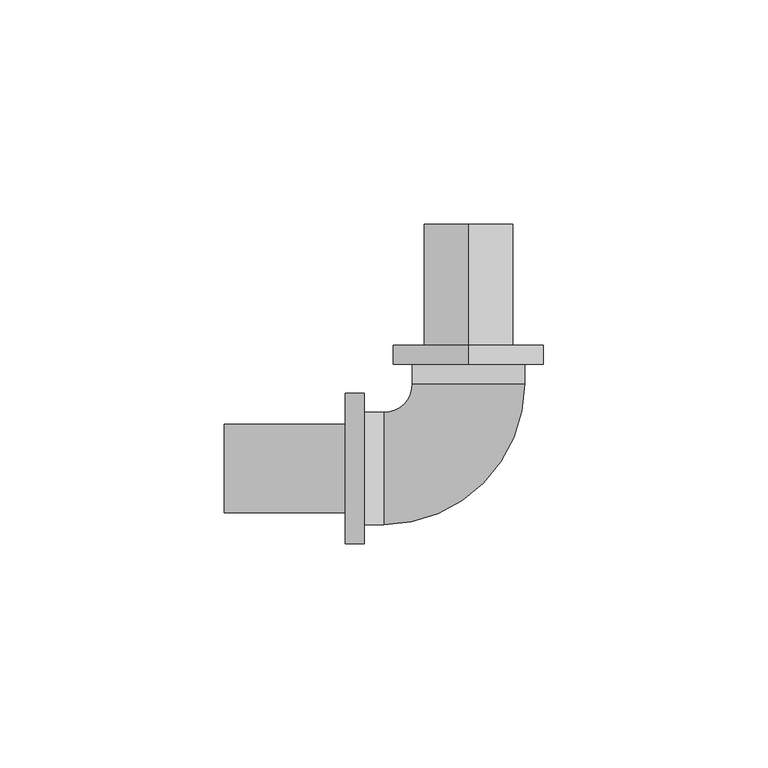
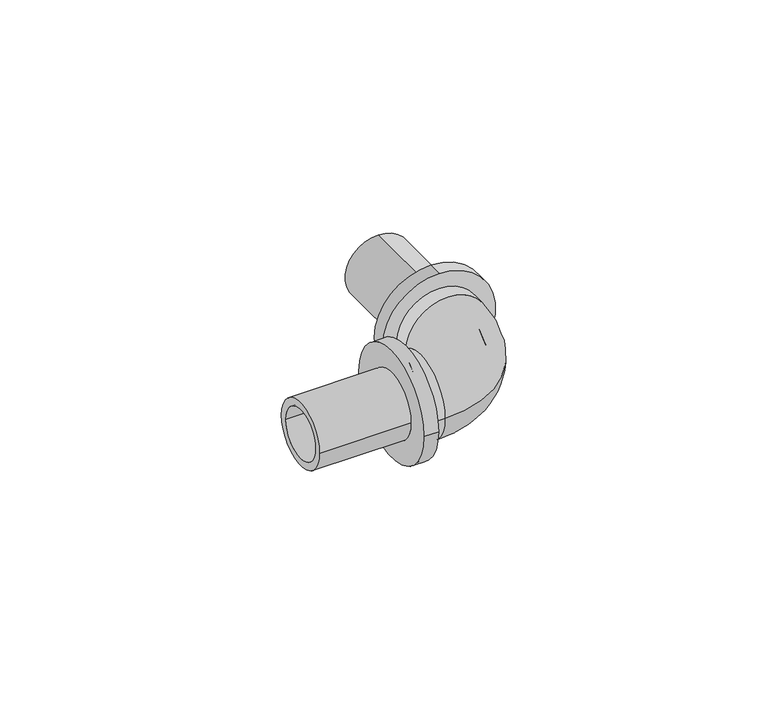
"""IFC4 building model written with IfcOpenShell, lengths in millimetres: pipe fitting geometry, RAUTITAN_Corner_RX+ : RTI RX+ C DE."""

import ifcopenshell
import ifcopenshell.guid

model = None  # the IFC model being written
_history = None  # IfcOwnerHistory: only IFC2X3 demands one
_inside = {}  # id of a spatial element -> (the spatial element, [elements in it])
_under = {}  # id of a project, library or spatial element -> (it, [spatial elements below it])
_declared = {}  # id of a project -> (the project, [libraries it declares])
_typed = {}  # id of a type object -> (the type object, [elements of that type])
_made_of = {}  # id of a material, layer set ... -> (it, [elements and type objects made of it])


def new_model(schema):
    """Start an empty IFC model of exactly this schema.

    Asked for "IFC4X3", IfcOpenShell would pick the latest addendum, in which some entities
    have other attributes; the version numbers below select the first issue.
    IFC2X3 requires an IfcOwnerHistory on every rooted entity: one is made here for all.
    """
    global model, _history
    if schema == "IFC4X3":
        model = ifcopenshell.file(schema_version=(4, 3, 0, 0))
    else:
        model = ifcopenshell.file(schema=schema)
    _inside.clear()
    _under.clear()
    _declared.clear()
    _typed.clear()
    _made_of.clear()
    _history = None
    if model.schema == "IFC2X3":
        org = make("IfcOrganization", Name="unknown")
        user = make(
            "IfcPersonAndOrganization",
            ThePerson=make("IfcPerson", FamilyName="unknown"),
            TheOrganization=org,
        )
        app = make(
            "IfcApplication",
            ApplicationDeveloper=org,
            Version="unknown",
            ApplicationFullName="unknown",
            ApplicationIdentifier="unknown",
        )
        _history = make(
            "IfcOwnerHistory",
            OwningUser=user,
            OwningApplication=app,
            ChangeAction="ADDED",
            CreationDate=0,
        )
    return model


def make(cls, **values):
    """One entity of the class cls with the attributes given. An attribute that is None is left unset."""
    return model.create_entity(
        cls, **{name: value for name, value in values.items() if value is not None}
    )


def rooted(cls, **values):
    """An entity with a GlobalId (a new one), such as an element, a storey or a relation."""
    return make(cls, GlobalId=ifcopenshell.guid.new(), OwnerHistory=_history, **values)


def si_unit(unit_type, name, prefix=None):
    """IfcSIUnit, for example si_unit("LENGTHUNIT", "METRE", prefix="MILLI")."""
    return make("IfcSIUnit", UnitType=unit_type, Prefix=prefix, Name=name)


def assignment(units):
    """IfcUnitAssignment: the units of a project."""
    return None if units is None else make("IfcUnitAssignment", Units=units)


def point(xyz):
    """IfcCartesianPoint."""
    return None if xyz is None else make("IfcCartesianPoint", Coordinates=xyz)


def direction(xyz):
    """IfcDirection."""
    return None if xyz is None else make("IfcDirection", DirectionRatios=xyz)


def frame(location, z_axis=None, x_axis=None):
    """IfcAxis2Placement3D, a coordinate frame: its origin and axes. An axis left out is left unset."""
    return make(
        "IfcAxis2Placement3D",
        Location=point(location),
        Axis=direction(z_axis),
        RefDirection=direction(x_axis),
    )


def origin():
    """The frame at (0, 0, 0) with its axes left unset."""
    return frame((0.0, 0.0, 0.0))


def place(relative_to, where):
    """IfcLocalPlacement: puts the frame where relative to a parent placement (None: the world)."""
    return make(
        "IfcLocalPlacement", PlacementRelTo=relative_to, RelativePlacement=where
    )


def context(
    kind, dimensions, precision=None, world=None, true_north=None, identifier=None
):
    """IfcGeometricRepresentationContext, for example the 3D "Model" context."""
    return make(
        "IfcGeometricRepresentationContext",
        ContextIdentifier=identifier,
        ContextType=kind,
        CoordinateSpaceDimension=dimensions,
        Precision=precision,
        WorldCoordinateSystem=world,
        TrueNorth=true_north,
    )


def project(units=None, contexts=None):
    """IfcProject with its units and contexts."""
    return rooted(
        "IfcProject",
        Name="project",
        RepresentationContexts=contexts,
        UnitsInContext=assignment(units),
    )


def spatial(cls, under=None, at=None, **own):
    """A site, building, storey or space (cls), placed at a placement, below another one or the project."""
    s = rooted(cls, ObjectPlacement=at, **own)
    if under is not None:
        _under.setdefault(under.id(), (under, []))[1].append(s)
    return s


def polyline(points):
    """IfcPolyline through the points."""
    return make("IfcPolyline", Points=[point(p) for p in points])


def circle_curve(where, radius):
    """IfcCircle in the frame where."""
    return make("IfcCircle", Position=where, Radius=radius)


def ellipse_curve(where, semi_axis1, semi_axis2):
    """IfcEllipse in the frame where."""
    return make(
        "IfcEllipse", Position=where, SemiAxis1=semi_axis1, SemiAxis2=semi_axis2
    )


def trimmed(basis, trim1, trim2, sense, master):
    """IfcTrimmedCurve: the piece of a basis curve between two trims."""
    return make(
        "IfcTrimmedCurve",
        BasisCurve=basis,
        Trim1=trim1,
        Trim2=trim2,
        SenseAgreement=sense,
        MasterRepresentation=master,
    )


def shape(context_of_items, identifier, shape_type, items):
    """IfcShapeRepresentation: the items that make up one representation, for example the "Body"."""
    return make(
        "IfcShapeRepresentation",
        ContextOfItems=context_of_items,
        RepresentationIdentifier=identifier,
        RepresentationType=shape_type,
        Items=items,
    )


def source(mapping_origin, context_of_items, identifier, shape_type, items):
    """IfcRepresentationMap: a shape defined once, which mapped items show again and again."""
    return make(
        "IfcRepresentationMap",
        MappingOrigin=mapping_origin,
        MappedRepresentation=shape(context_of_items, identifier, shape_type, items),
    )


def transform(
    local_origin,
    x_axis=None,
    y_axis=None,
    z_axis=None,
    scale=None,
    scale2=None,
    scale3=None,
    uniform=True,
):
    """IfcCartesianTransformationOperator3D, or its non-uniform kind. x_axis, y_axis, z_axis: its Axis1, 2, 3."""
    if uniform:
        return make(
            "IfcCartesianTransformationOperator3D",
            Axis1=direction(x_axis),
            Axis2=direction(y_axis),
            LocalOrigin=point(local_origin),
            Scale=scale,
            Axis3=direction(z_axis),
        )
    return make(
        "IfcCartesianTransformationOperator3DnonUniform",
        Axis1=direction(x_axis),
        Axis2=direction(y_axis),
        LocalOrigin=point(local_origin),
        Scale=scale,
        Axis3=direction(z_axis),
        Scale2=scale2,
        Scale3=scale3,
    )


def mapped(mapping_source, mapping_target):
    """IfcMappedItem: shows the shape of a source again, moved by a transform."""
    return make(
        "IfcMappedItem", MappingSource=mapping_source, MappingTarget=mapping_target
    )


def made_of(thing, what):
    """Note that an element or type object is made of a material, layer set ...; save() writes the relation."""
    if what is not None:
        _made_of.setdefault(what.id(), (what, []))[1].append(thing)
    return thing


def element(
    cls,
    number,
    at=None,
    inside=None,
    cuts=None,
    type_object=None,
    material=None,
    context=None,
    identifier="Body",
    shape_type=None,
    held_by="IfcProductDefinitionShape",
    body=None,
    shapes=None,
    **own,
):
    """One element of the class cls, such as IfcWall. Its Tag is "e" and its number.

    at: its placement. inside: the storey or other place that contains it. cuts: it is an
    opening in that element (IfcRelVoidsElement). A single representation is given by context,
    identifier, shape_type and body (its items); several are given by shapes. held_by: the class
    of the entity that holds the representations. save() writes the other relations.
    """
    e = rooted(cls, Tag="e%d" % number, ObjectPlacement=at, **own)
    if body is not None:
        shapes = [shape(context, identifier, shape_type, body)]
    if shapes is not None:
        e.Representation = make(held_by, Representations=shapes)
    if inside is not None:
        _inside.setdefault(inside.id(), (inside, []))[1].append(e)
    if cuts is not None:
        rooted(
            "IfcRelVoidsElement", RelatingBuildingElement=cuts, RelatedOpeningElement=e
        )
    if type_object is not None:
        _typed.setdefault(type_object.id(), (type_object, []))[1].append(e)
    return made_of(e, material)


def aggregate(whole, parts):
    """IfcRelAggregates: a whole, such as a stair, and the parts it consists of."""
    return rooted("IfcRelAggregates", RelatingObject=whole, RelatedObjects=parts)


def save(model, path):
    """Write the relations noted so far, then the file.

    IfcRelAggregates (storeys below a building ...), IfcRelContainedInSpatialStructure (elements
    in a storey), IfcRelDefinesByType, IfcRelAssociatesMaterial and IfcRelDeclares: one each for
    every whole, place, type object, material and project.
    """
    for whole, parts in _under.values():
        aggregate(whole, parts)
    for where, things in _inside.values():
        rooted(
            "IfcRelContainedInSpatialStructure",
            RelatedElements=things,
            RelatingStructure=where,
        )
    for kind, things in _typed.values():
        rooted("IfcRelDefinesByType", RelatedObjects=things, RelatingType=kind)
    for what, things in _made_of.values():
        rooted("IfcRelAssociatesMaterial", RelatedObjects=things, RelatingMaterial=what)
    for by, libraries in _declared.values():
        rooted("IfcRelDeclares", RelatingContext=by, RelatedDefinitions=libraries)
    model.write(path)


def plane_surface(at):
    """IfcPlane: the flat surface through the origin of the frame at, square to its z axis."""
    return make("IfcPlane", Position=at)


def cylinder_surface(at, radius):
    """IfcCylindricalSurface: all points at the distance radius from the z axis of the frame at."""
    return make("IfcCylindricalSurface", Position=at, Radius=radius)


def revolved_surface(curve, axis_point, axis_direction):
    """IfcSurfaceOfRevolution: the curve turned about the line through axis_point along axis_direction."""
    return make(
        "IfcSurfaceOfRevolution",
        SweptCurve=make("IfcArbitraryOpenProfileDef", ProfileType="CURVE", Curve=curve),
        AxisPosition=make("IfcAxis1Placement", Location=point(axis_point), Axis=direction(axis_direction)),
    )


def advanced_brep(points, edges, surfaces, faces):
    """IfcAdvancedBrep: a solid bounded by faces that lie on surfaces and meet in shared edges.

    An edge is (start, end): straight between two places in points (the first is 0);
    or (start, end, curve); or (start, end, curve, False) where it runs against its curve.
    A face is (place in surfaces, loops), or (place, loops, False) where it looks against
    its surface's normal. A loop lists edges by number (the first is 1), with a minus sign
    where the edge is run from its end to its start. The first loop is the outer one.
    """
    corners = [point(p) for p in points]
    vertices = [make("IfcVertexPoint", VertexGeometry=c) for c in corners]
    made = []
    for start, end, *more in edges:
        made.append(
            make(
                "IfcEdgeCurve",
                EdgeStart=vertices[start],
                EdgeEnd=vertices[end],
                EdgeGeometry=more[0] if more else make("IfcPolyline", Points=[corners[start], corners[end]]),
                SameSense=more[1] if len(more) > 1 else True,
            )
        )
    hull = []
    for where, loops, *sense in faces:
        bounds = []
        for j, loop in enumerate(loops):
            ring = [make("IfcOrientedEdge", EdgeElement=made[abs(k) - 1], Orientation=k > 0) for k in loop]
            bounds.append(
                make(
                    "IfcFaceOuterBound" if j == 0 else "IfcFaceBound",
                    Bound=make("IfcEdgeLoop", EdgeList=ring),
                    Orientation=True,
                )
            )
        hull.append(make("IfcAdvancedFace", Bounds=bounds, FaceSurface=surfaces[where], SameSense=sense[0] if sense else True))
    return make("IfcAdvancedBrep", Outer=make("IfcClosedShell", CfsFaces=hull))


def pipe_fitting_8abba781(model_context):
    return source(origin(), model_context, "Body", "AdvancedBrep", [
        advanced_brep(
        [(-23.3, 12.5, 0.0), (-23.3, -12.5, 0.0), (-23.3, 7.6, 0.0), (-23.3, -7.6, 0.0), (-18.9, -7.6, 0.0), (-18.9, 7.6, 0.0), (-18.9, -12.5, 0.0), (-18.9, 12.5, 0.0), (12.5, 23.3, 0.0), (-12.5, 23.3, 0.0), (7.6, 23.3, 0.0), (-7.6, 23.3, 0.0), (-7.6, 18.9, 0.0), (7.6, 18.9, 0.0), (-12.5, 18.9, 0.0), (12.5, 18.9, 0.0)],
        [
            (0, 1, circle_curve(frame((-23.3, 0.0, 0.0), z_axis=(-1.0, 0.0, 0.0), x_axis=(0.0, -1.0, 0.0)), 12.5)),
            (1, 0, circle_curve(frame((-23.3, 0.0, 0.0), z_axis=(-1.0, 0.0, 0.0), x_axis=(0.0, -1.0, 0.0)), 12.5)),
            (2, 3, circle_curve(frame((-23.3, 0.0, 0.0), z_axis=(1.0, 0.0, 0.0), x_axis=(0.0, -1.0, 0.0)), 7.6)),
            (3, 2, circle_curve(frame((-23.3, 0.0, 0.0), z_axis=(1.0, 0.0, 0.0), x_axis=(0.0, -1.0, 0.0)), 7.6)),
            (3, 4),
            (4, 5, circle_curve(frame((-18.9, 0.0, 0.0), z_axis=(1.0, 0.0, 0.0), x_axis=(0.0, -1.0, 0.0)), 7.6)),
            (5, 2),
            (5, 4, circle_curve(frame((-18.9, 0.0, 0.0), z_axis=(1.0, 0.0, 0.0), x_axis=(0.0, -1.0, 0.0)), 7.6)),
            (1, 6),
            (6, 7, circle_curve(frame((-18.9, 0.0, 0.0), z_axis=(-1.0, 0.0, 0.0), x_axis=(0.0, -1.0, 0.0)), 12.5)),
            (7, 0),
            (7, 6, circle_curve(frame((-18.9, 0.0, 0.0), z_axis=(-1.0, 0.0, 0.0), x_axis=(0.0, -1.0, 0.0)), 12.5)),
            (8, 9, circle_curve(frame((0.0, 23.3, 0.0), z_axis=(0.0, 1.0, 0.0), x_axis=(-1.0, 0.0, 0.0)), 12.5)),
            (9, 8, circle_curve(frame((0.0, 23.3, 0.0), z_axis=(0.0, 1.0, 0.0), x_axis=(-1.0, 0.0, 0.0)), 12.5)),
            (10, 11, circle_curve(frame((0.0, 23.3, 0.0), z_axis=(0.0, -1.0, 0.0), x_axis=(-1.0, 0.0, 0.0)), 7.6)),
            (11, 10, circle_curve(frame((0.0, 23.3, 0.0), z_axis=(0.0, -1.0, 0.0), x_axis=(-1.0, 0.0, 0.0)), 7.6)),
            (11, 12),
            (12, 13, circle_curve(frame((0.0, 18.9, 0.0), z_axis=(0.0, -1.0, 0.0), x_axis=(-1.0, 0.0, 0.0)), 7.6)),
            (13, 10),
            (13, 12, circle_curve(frame((0.0, 18.9, 0.0), z_axis=(0.0, -1.0, 0.0), x_axis=(-1.0, 0.0, 0.0)), 7.6)),
            (9, 14),
            (14, 15, circle_curve(frame((0.0, 18.9, 0.0), z_axis=(0.0, 1.0, 0.0), x_axis=(-1.0, 0.0, 0.0)), 12.5)),
            (15, 8),
            (15, 14, circle_curve(frame((0.0, 18.9, 0.0), z_axis=(0.0, 1.0, 0.0), x_axis=(-1.0, 0.0, 0.0)), 12.5)),
            (12, 5, circle_curve(frame((-18.9, 18.9, 0.0), z_axis=(0.0, 0.0, -1.0), x_axis=(0.0, -1.0, 0.0)), 11.3)),
            (4, 13, circle_curve(frame((-18.9, 18.9, 0.0), z_axis=(0.0, 0.0, 1.0), x_axis=(0.0, -1.0, 0.0)), 26.5)),
            (14, 7, circle_curve(frame((-18.9, 18.9, 0.0), z_axis=(0.0, 0.0, -1.0), x_axis=(0.0, -1.0, 0.0)), 6.4)),
            (6, 15, circle_curve(frame((-18.9, 18.9, 0.0), z_axis=(0.0, 0.0, 1.0), x_axis=(0.0, -1.0, 0.0)), 31.4)),
        ],
        [
            plane_surface(frame((-23.3, 0.0, 0.0), z_axis=(-1.0, 0.0, 0.0), x_axis=(0.0, 0.0, 1.0))),
            revolved_surface(polyline([(-23.3, -7.6, 0.0), (-18.9, -7.6, 0.0)]), (-18.9, 0.0, 0.0), (-1.0, 0.0, 0.0)),
            cylinder_surface(frame((-18.9, 0.0, 0.0), z_axis=(1.0, 0.0, 0.0), x_axis=(0.0, -1.0, 0.0)), 12.5),
            plane_surface(frame((0.0, 23.3, 0.0), z_axis=(0.0, 1.0, 0.0), x_axis=(0.0, 0.0, 1.0))),
            revolved_surface(polyline([(-7.6, 23.3, 0.0), (-7.6, 18.9, 0.0)]), (0.0, 18.9, 0.0), (0.0, 1.0, 0.0)),
            cylinder_surface(frame((0.0, 18.9, 0.0), z_axis=(0.0, -1.0, 0.0), x_axis=(-1.0, 0.0, 0.0)), 12.5),
            revolved_surface(trimmed(ellipse_curve(frame((-18.9, 0.0, 0.0), z_axis=(1.0, 0.0, 0.0), x_axis=(0.0, 1.0, 0.0)), 7.6, 7.6), [point((-18.9, -7.6, 0.0))], [point((-18.9, 7.6, 0.0))], True, "CARTESIAN"), (-18.9, 18.9, 0.0), (0.0, 0.0, 1.0)),
            revolved_surface(trimmed(ellipse_curve(frame((-18.9, 0.0, 0.0), z_axis=(1.0, 0.0, 0.0), x_axis=(0.0, 1.0, 0.0)), 7.6, 7.6), [point((-18.9, 7.6, 0.0))], [point((-18.9, -7.6, 0.0))], True, "CARTESIAN"), (-18.9, 18.9, 0.0), (0.0, 0.0, 1.0)),
            revolved_surface(trimmed(ellipse_curve(frame((-18.9, 0.0, 0.0), z_axis=(-1.0, 0.0, 0.0), x_axis=(0.0, 1.0, 0.0)), 12.5, 12.5), [point((-18.9, -12.5, 0.0))], [point((-18.9, 12.5, 0.0))], True, "CARTESIAN"), (-18.9, 18.9, 0.0), (0.0, 0.0, 1.0)),
            revolved_surface(trimmed(ellipse_curve(frame((-18.9, 0.0, 0.0), z_axis=(-1.0, 0.0, 0.0), x_axis=(0.0, 1.0, 0.0)), 12.5, 12.5), [point((-18.9, 12.5, 0.0))], [point((-18.9, -12.5, 0.0))], True, "CARTESIAN"), (-18.9, 18.9, 0.0), (0.0, 0.0, 1.0)),
        ],
        [
            (0, [[1, 2], [3, 4]]),
            (1, [[-4, 5, 6, 7]]),
            (1, [[-3, -7, 8, -5]]),
            (2, [[-2, 9, 10, 11]]),
            (2, [[-1, -11, 12, -9]]),
            (3, [[13, 14], [15, 16]]),
            (4, [[-16, 17, 18, 19]]),
            (4, [[-15, -19, 20, -17]]),
            (5, [[-14, 21, 22, 23]]),
            (5, [[-13, -23, 24, -21]]),
            (6, [[25, -6, 26, -18]]),
            (7, [[-25, -20, -26, -8]]),
            (8, [[27, -10, 28, -22]]),
            (9, [[-27, -24, -28, -12]]),
        ],
    ),
        advanced_brep(
        [(-27.5, -16.8, 0.0), (-27.5, 16.8, 0.0), (-23.3, 16.8, 0.0), (-23.3, -16.8, 0.0), (-54.5, -9.9, 0.0), (-54.5, 9.9, 0.0), (-27.5, 9.9, 0.0), (-27.5, -9.9, 0.0), (-23.3, -7.6, 0.0), (-23.3, 7.6, 0.0), (-54.5, 7.6, 0.0), (-54.5, -7.6, 0.0)],
        [
            (0, 1, circle_curve(frame((-27.5, 0.0, 0.0), z_axis=(1.0, 0.0, 0.0), x_axis=(0.0, 1.0, 0.0)), 16.8)),
            (1, 2),
            (2, 3, circle_curve(frame((-23.3, 0.0, 0.0), z_axis=(-1.0, 0.0, 0.0), x_axis=(0.0, 1.0, 0.0)), 16.8)),
            (3, 0),
            (4, 5, circle_curve(frame((-54.5, 0.0, 0.0), z_axis=(1.0, 0.0, 0.0), x_axis=(0.0, 1.0, 0.0)), 9.9)),
            (5, 6),
            (6, 7, circle_curve(frame((-27.5, 0.0, 0.0), z_axis=(-1.0, 0.0, 0.0), x_axis=(0.0, 1.0, 0.0)), 9.9)),
            (7, 4),
            (8, 9, circle_curve(frame((-23.3, 0.0, 0.0), z_axis=(1.0, 0.0, 0.0), x_axis=(0.0, 1.0, 0.0)), 7.6)),
            (9, 10),
            (10, 11, circle_curve(frame((-54.5, 0.0, 0.0), z_axis=(-1.0, 0.0, 0.0), x_axis=(0.0, 1.0, 0.0)), 7.6)),
            (11, 8),
            (1, 0, circle_curve(frame((-27.5, 0.0, 0.0), z_axis=(1.0, 0.0, 0.0), x_axis=(0.0, -1.0, 0.0)), 16.8)),
            (3, 2, circle_curve(frame((-23.3, 0.0, 0.0), z_axis=(-1.0, 0.0, 0.0), x_axis=(0.0, -1.0, 0.0)), 16.8)),
            (6, 7, circle_curve(frame((-27.5, 0.0, 0.0), z_axis=(1.0, 0.0, 0.0), x_axis=(0.0, -1.0, 0.0)), 9.9)),
            (5, 4, circle_curve(frame((-54.5, 0.0, 0.0), z_axis=(1.0, 0.0, 0.0), x_axis=(0.0, -1.0, 0.0)), 9.9)),
            (10, 11, circle_curve(frame((-54.5, 0.0, 0.0), z_axis=(1.0, 0.0, 0.0), x_axis=(0.0, -1.0, 0.0)), 7.6)),
            (9, 8, circle_curve(frame((-23.3, 0.0, 0.0), z_axis=(1.0, 0.0, 0.0), x_axis=(0.0, -1.0, 0.0)), 7.6)),
        ],
        [
            cylinder_surface(frame((-23.3, 0.0, 0.0), z_axis=(-1.0, 0.0, 0.0), x_axis=(0.0, 1.0, 0.0)), 16.8),
            cylinder_surface(frame((-23.3, 0.0, 0.0), z_axis=(-1.0, 0.0, 0.0), x_axis=(0.0, 1.0, 0.0)), 9.9),
            revolved_surface(polyline([(-54.5, 7.6, 0.0), (-23.3, 7.6, 0.0)]), (-23.3, 0.0, 0.0), (-1.0, 0.0, 0.0)),
            cylinder_surface(frame((-23.3, 0.0, 0.0), z_axis=(-1.0, 0.0, 0.0), x_axis=(0.0, -1.0, 0.0)), 16.8),
            plane_surface(frame((-27.5, 0.0, 0.0), z_axis=(-1.0, 0.0, 0.0), x_axis=(0.0, -1.0, 0.0))),
            cylinder_surface(frame((-23.3, 0.0, 0.0), z_axis=(-1.0, 0.0, 0.0), x_axis=(0.0, -1.0, 0.0)), 9.9),
            plane_surface(frame((-54.5, 0.0, 0.0), z_axis=(-1.0, 0.0, 0.0), x_axis=(0.0, -1.0, 0.0))),
            revolved_surface(polyline([(-54.5, -7.6, 0.0), (-23.3, -7.6, 0.0)]), (-23.3, 0.0, 0.0), (-1.0, 0.0, 0.0)),
            plane_surface(frame((-23.3, 0.0, 0.0), z_axis=(1.0, 0.0, 0.0), x_axis=(0.0, -1.0, 0.0))),
        ],
        [
            (0, [[1, 2, 3, 4]]),
            (1, [[5, 6, 7, 8]]),
            (2, [[9, 10, 11, 12]]),
            (3, [[13, -4, 14, -2]]),
            (4, [[-13, -1], [15, -7]]),
            (5, [[16, -8, -15, -6]]),
            (6, [[-16, -5], [17, -11]]),
            (7, [[18, -12, -17, -10]]),
            (8, [[-14, -3], [-18, -9]]),
        ],
    ),
        advanced_brep(
        [(0.0, 27.5, 17.2249044), (0.0, 27.5, -16.3750956), (0.0, 23.3, -16.3750956), (0.0, 23.3, 17.2249044), (0.0, 54.5, 10.3249044), (0.0, 54.5, -9.4750956), (0.0, 27.5, -9.4750956), (0.0, 27.5, 10.3249044), (0.0, 23.3, 8.0249044), (0.0, 23.3, -7.1750956), (0.0, 54.5, -7.1750956), (0.0, 54.5, 8.0249044)],
        [
            (0, 1, circle_curve(frame((0.0, 27.5, 0.4249044), z_axis=(0.0, -1.0, 0.0), x_axis=(0.0, 0.0, -1.0)), 16.8)),
            (1, 2),
            (2, 3, circle_curve(frame((0.0, 23.3, 0.4249044), z_axis=(0.0, 1.0, 0.0), x_axis=(0.0, 0.0, -1.0)), 16.8)),
            (3, 0),
            (4, 5, circle_curve(frame((0.0, 54.5, 0.4249044), z_axis=(0.0, -1.0, 0.0), x_axis=(0.0, 0.0, -1.0)), 9.9)),
            (5, 6),
            (6, 7, circle_curve(frame((0.0, 27.5, 0.4249044), z_axis=(0.0, 1.0, 0.0), x_axis=(0.0, 0.0, -1.0)), 9.9)),
            (7, 4),
            (8, 9, circle_curve(frame((0.0, 23.3, 0.4249044), z_axis=(0.0, -1.0, 0.0), x_axis=(0.0, 0.0, -1.0)), 7.6)),
            (9, 10),
            (10, 11, circle_curve(frame((0.0, 54.5, 0.4249044), z_axis=(0.0, 1.0, 0.0), x_axis=(0.0, 0.0, -1.0)), 7.6)),
            (11, 8),
            (1, 0, circle_curve(frame((0.0, 27.5, 0.4249044), z_axis=(0.0, -1.0, 0.0), x_axis=(0.0, 0.0, 1.0)), 16.8)),
            (3, 2, circle_curve(frame((0.0, 23.3, 0.4249044), z_axis=(0.0, 1.0, 0.0), x_axis=(0.0, 0.0, 1.0)), 16.8)),
            (6, 7, circle_curve(frame((0.0, 27.5, 0.4249044), z_axis=(0.0, -1.0, 0.0), x_axis=(0.0, 0.0, 1.0)), 9.9)),
            (5, 4, circle_curve(frame((0.0, 54.5, 0.4249044), z_axis=(0.0, -1.0, 0.0), x_axis=(0.0, 0.0, 1.0)), 9.9)),
            (10, 11, circle_curve(frame((0.0, 54.5, 0.4249044), z_axis=(0.0, -1.0, 0.0), x_axis=(0.0, 0.0, 1.0)), 7.6)),
            (9, 8, circle_curve(frame((0.0, 23.3, 0.4249044), z_axis=(0.0, -1.0, 0.0), x_axis=(0.0, 0.0, 1.0)), 7.6)),
        ],
        [
            cylinder_surface(frame((0.0, 23.3, 0.4249044), z_axis=(0.0, 1.0, 0.0), x_axis=(0.0, 0.0, -1.0)), 16.8),
            cylinder_surface(frame((0.0, 23.3, 0.4249044), z_axis=(0.0, 1.0, 0.0), x_axis=(0.0, 0.0, -1.0)), 9.9),
            revolved_surface(polyline([(0.0, 54.5, -7.1750956), (0.0, 23.3, -7.1750956)]), (0.0, 23.3, 0.4249044), (0.0, 1.0, 0.0)),
            cylinder_surface(frame((0.0, 23.3, 0.4249044), z_axis=(0.0, 1.0, 0.0), x_axis=(0.0, 0.0, 1.0)), 16.8),
            plane_surface(frame((0.0, 27.5, 0.4249044), z_axis=(0.0, 1.0, 0.0), x_axis=(0.0, 0.0, 1.0))),
            cylinder_surface(frame((0.0, 23.3, 0.4249044), z_axis=(0.0, 1.0, 0.0), x_axis=(0.0, 0.0, 1.0)), 9.9),
            plane_surface(frame((0.0, 54.5, 0.4249044), z_axis=(0.0, 1.0, 0.0), x_axis=(0.0, 0.0, 1.0))),
            revolved_surface(polyline([(0.0, 54.5, 8.0249044), (0.0, 23.3, 8.0249044)]), (0.0, 23.3, 0.4249044), (0.0, 1.0, 0.0)),
            plane_surface(frame((0.0, 23.3, 0.4249044), z_axis=(0.0, -1.0, 0.0), x_axis=(0.0, 0.0, 1.0))),
        ],
        [
            (0, [[1, 2, 3, 4]]),
            (1, [[5, 6, 7, 8]]),
            (2, [[9, 10, 11, 12]]),
            (3, [[13, -4, 14, -2]]),
            (4, [[-13, -1], [15, -7]]),
            (5, [[16, -8, -15, -6]]),
            (6, [[-16, -5], [17, -11]]),
            (7, [[18, -12, -17, -10]]),
            (8, [[-14, -3], [-18, -9]]),
        ],
    ),
    ])


if __name__ == "__main__":
    model = new_model("IFC4")
    model_context = context("Model", 3, world=origin())
    ifc_project = project(units=[si_unit("LENGTHUNIT", "METRE", prefix="MILLI")], contexts=[model_context])
    site = spatial("IfcSite", under=ifc_project)
    building = spatial("IfcBuilding", under=site)
    placement = place(None, origin())
    pipe_fitting_shape = pipe_fitting_8abba781(model_context)
    element("IfcPipeFitting", 1, ObjectType="RAUTITAN_Corner_RX+ : RTI RX+ C DE", at=placement, inside=building, context=model_context, shape_type="MappedRepresentation", body=[
        mapped(pipe_fitting_shape, transform((0.0, 0.0, 0.0), x_axis=(1.0, 0.0, 0.0), y_axis=(0.0, 1.0, 0.0), z_axis=(0.0, 0.0, 1.0))),
    ])
    save(model, "model.ifc")
